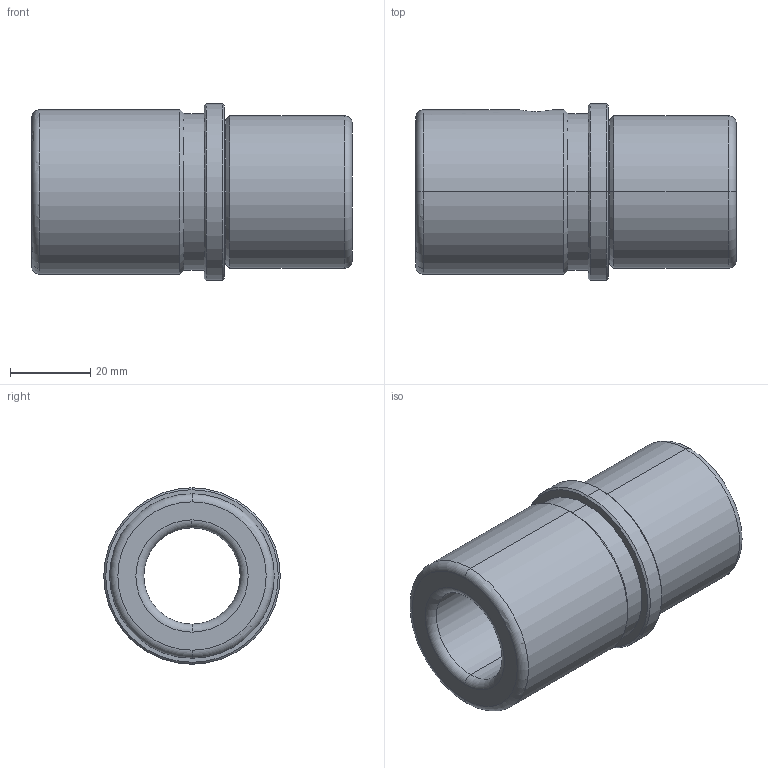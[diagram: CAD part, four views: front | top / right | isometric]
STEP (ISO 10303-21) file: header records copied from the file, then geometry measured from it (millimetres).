
FILE_DESCRIPTION(('CATIA V5 STEP Exchange'),'2;1');
FILE_NAME('C:\Users\Utente\Desktop\IO LAVORO\3D X SITO CF\X SITO\FAMO\FAMO-SF1-D24 x 80.stp','2021-01-06T17:06:50+00:00',('none'),('none'),'CATIA Version 5 Release 20 GA (IN-10)','CATIA V5 STEP AP203','none');
FILE_SCHEMA(('CONFIG_CONTROL_DESIGN'));
Length unit declared in the file: millimetre
Products named in the file (1): FAMO-SF1-D24 x 80
Bounding box: 80 x 44 x 44 mm (x, y, z)
Volume: 62597.9 mm3; surface area: 18377.2 mm2
Topology: 1 solids, 1 shells, 37 faces, 126 edges, 94 vertices
Faces by surface type: cylinder 14, cone 10, torus 8, plane 5
Entity records: 1631 total; most frequent: CARTESIAN_POINT 499, ORIENTED_EDGE 252, DIRECTION 180, EDGE_CURVE 126, AXIS2_PLACEMENT_3D 120, VERTEX_POINT 94, CIRCLE 82, EDGE_LOOP 44
